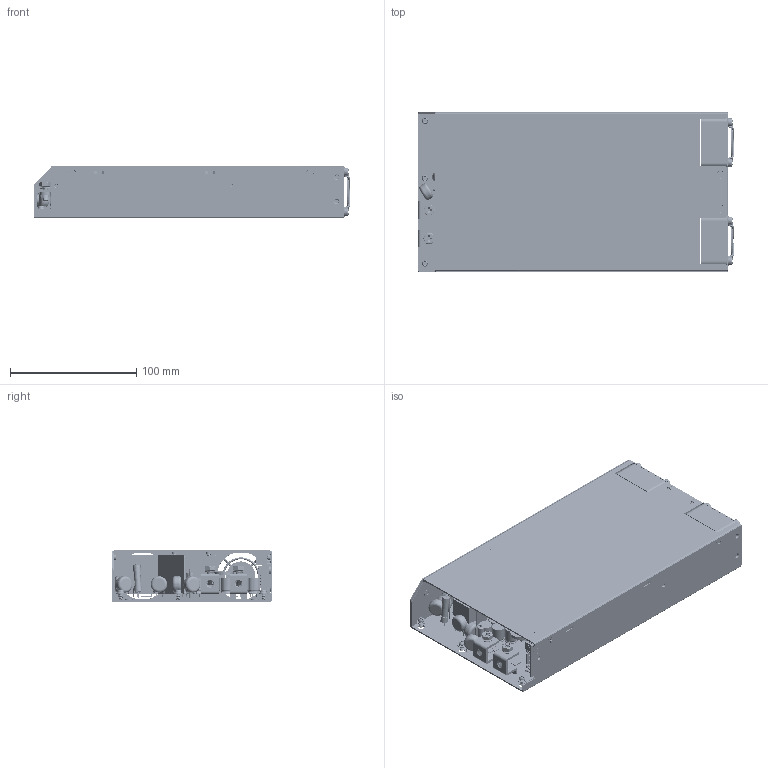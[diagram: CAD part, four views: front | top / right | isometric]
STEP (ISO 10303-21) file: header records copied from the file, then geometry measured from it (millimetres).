
FILE_DESCRIPTION((''),'2;1');
FILE_NAME('LM1500-22BXX_ASM','2023-12-21T',('pe202'),(''),'PRO/ENGINEER BY PARAMETRIC TECHNOLOGY CORPORATION, 2014000','PRO/ENGINEER BY PARAMETRIC TECHNOLOGY CORPORATION, 2014000','');
FILE_SCHEMA(('AUTOMOTIVE_DESIGN { 1 0 10303 214 1 1 1 1 }'));
Products named in the file (1): LM1500-22BXX_ASM
Bounding box: 250.2 x 127.44 x 40.5 mm (x, y, z)
Volume: 171001.9 mm3; surface area: 256544 mm2
Topology: 73 solids, 90 shells, 6144 faces, 17883 edges, 12198 vertices
Faces by surface type: plane 3979, cylinder 1286, torus 332, bspline 330, cone 127, sphere 88, extrusion 2
Entity records: 280720 total; most frequent: CARTESIAN_POINT 89356, ORIENTED_EDGE 35606, DIRECTION 31727, EDGE_CURVE 17803, VERTEX_POINT 12196, VECTOR 11767, LINE 11765, AXIS2_PLACEMENT_3D 9980
